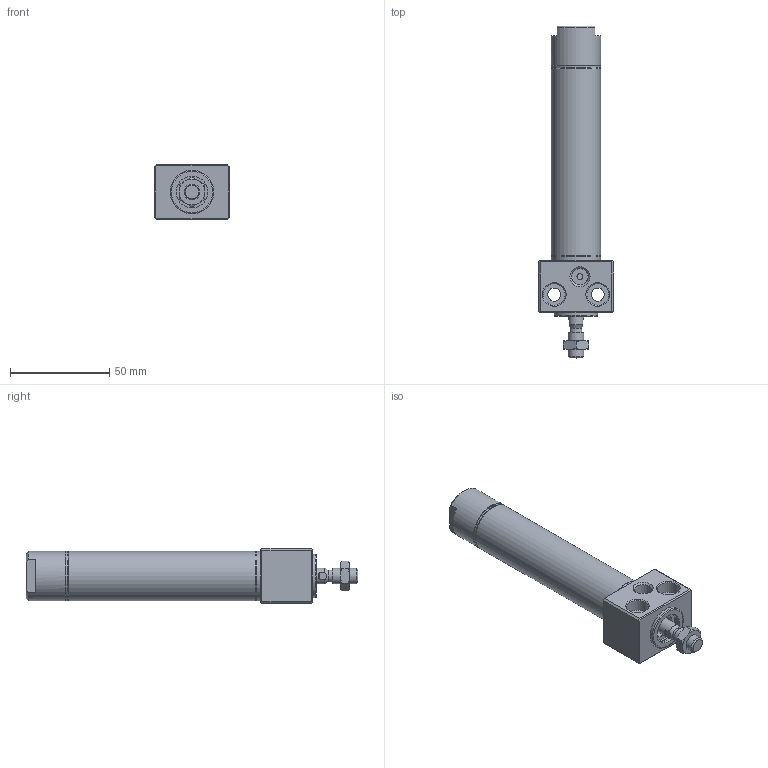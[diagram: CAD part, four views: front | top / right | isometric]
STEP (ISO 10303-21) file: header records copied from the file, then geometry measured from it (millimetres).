
FILE_DESCRIPTION((''),'2;1');
FILE_NAME('I:\3D電子目錄\氣缸\DBS\DBS\DBS20x50.stp','2007-10-08T08:30:43',('Administrator'),(''),'Autodesk Inventor 2008','Autodesk Inventor 2008','');
FILE_SCHEMA(('AUTOMOTIVE_DESIGN { 1 0 10303 214 1 1 1 1 }'));
Length unit declared in the file: millimetre
Products named in the file (1): DBS20x50
Bounding box: 38 x 167.6 x 28 mm (x, y, z)
Volume: 57150.1 mm3; surface area: 30297 mm2
Topology: 6 solids, 6 shells, 165 faces, 325 edges, 197 vertices
Faces by surface type: plane 73, cone 41, cylinder 36, bspline 12, torus 3
Full cylindrical faces by diameter (mm): 3 x1, 5 x1, 6 x3, 8 x3, 8.5 x1, 10 x1, 10.5 x2, 12 x3, 14.5 x2, 16 x2, 17 x1, 18 x2, 20 x1, 20.2 x2, 22 x1, 22.2 x6, 25 x4
Entity records: 4012 total; most frequent: CARTESIAN_POINT 924, DIRECTION 650, ORIENTED_EDGE 486, AXIS2_PLACEMENT_3D 287, EDGE_LOOP 282, EDGE_CURVE 243, VERTEX_POINT 189, FACE_OUTER_BOUND 165
